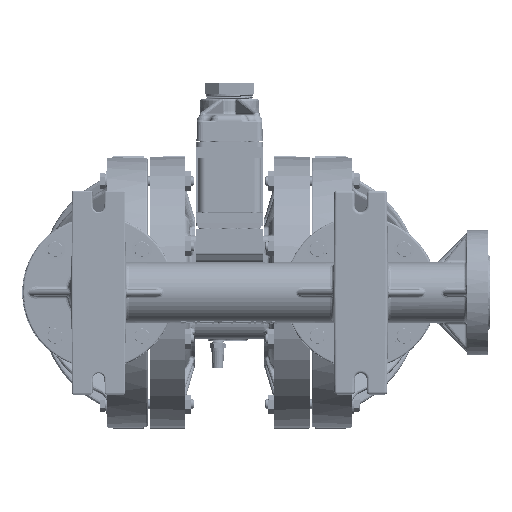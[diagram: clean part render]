
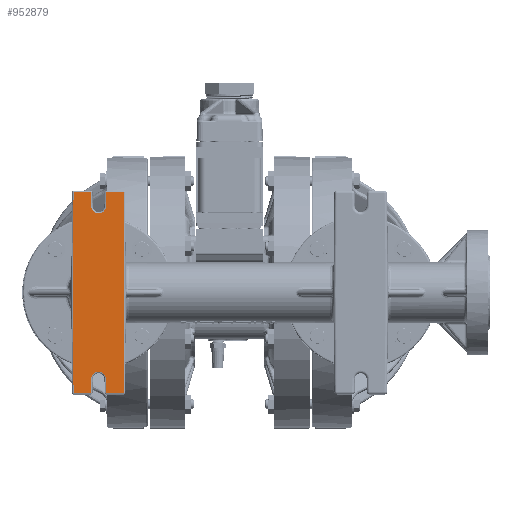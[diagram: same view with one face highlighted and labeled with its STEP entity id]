
A CAD part, front view. The second image highlights one B-rep face of the part: STEP entity #952879.
In plain terms, the highlighted planar face has unit normal (0, -1, 0).
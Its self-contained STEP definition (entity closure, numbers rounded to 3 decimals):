
#912533=DIRECTION('',(-1.,0.,0.));
#912534=VECTOR('',#912533,0.691);
#912535=CARTESIAN_POINT('',(-5.493,-12.884,3.98));
#912536=LINE('',#912535,#912534);
#912551=DIRECTION('',(-0.009,0.,1.));
#912552=VECTOR('',#912551,0.55);
#912553=CARTESIAN_POINT('',(-5.488,-12.884,3.43));
#912554=LINE('',#912553,#912552);
#912820=DIRECTION('',(-0.009,0.,1.));
#912821=VECTOR('',#912820,3.98);
#912822=CARTESIAN_POINT('',(-4.169,-12.884,0.));
#912823=LINE('',#912822,#912821);
#912857=DIRECTION('',(0.009,0.,1.));
#912858=VECTOR('',#912857,3.98);
#912859=CARTESIAN_POINT('',(-4.204,-12.884,-3.98));
#912860=LINE('',#912859,#912858);
#913142=DIRECTION('',(0.009,0.,-1.));
#913143=VECTOR('',#913142,3.98);
#913144=CARTESIAN_POINT('',(-6.219,-12.884,0.));
#913145=LINE('',#913144,#913143);
#913179=DIRECTION('',(1.,0.,0.));
#913180=VECTOR('',#913179,0.691);
#913181=CARTESIAN_POINT('',(-6.184,-12.884,-3.98));
#913182=LINE('',#913181,#913180);
#913197=DIRECTION('',(0.009,0.,1.));
#913198=VECTOR('',#913197,0.55);
#913199=CARTESIAN_POINT('',(-5.493,-12.884,-3.98));
#913200=LINE('',#913199,#913198);
#913210=CARTESIAN_POINT('',(-5.194,-12.884,-3.43));
#913211=DIRECTION('',(0.,1.,0.));
#913212=DIRECTION('',(-1.,0.,0.001));
#913213=AXIS2_PLACEMENT_3D('',#913210,#913211,#913212);
#913244=DIRECTION('',(0.009,0.,-1.));
#913245=VECTOR('',#913244,0.55);
#913246=CARTESIAN_POINT('',(-4.9,-12.884,-3.43));
#913247=LINE('',#913246,#913245);
#913281=DIRECTION('',(1.,0.,0.));
#913282=VECTOR('',#913281,0.691);
#913283=CARTESIAN_POINT('',(-4.895,-12.884,-3.98));
#913284=LINE('',#913283,#913282);
#913325=DIRECTION('',(-0.009,0.,-1.));
#913326=VECTOR('',#913325,3.98);
#913327=CARTESIAN_POINT('',(-6.184,-12.884,3.98));
#913328=LINE('',#913327,#913326);
#914097=DIRECTION('',(-1.,0.,0.));
#914098=VECTOR('',#914097,0.691);
#914099=CARTESIAN_POINT('',(-4.204,-12.884,3.98));
#914100=LINE('',#914099,#914098);
#914115=DIRECTION('',(-0.009,0.,-1.));
#914116=VECTOR('',#914115,0.55);
#914117=CARTESIAN_POINT('',(-4.895,-12.884,3.98));
#914118=LINE('',#914117,#914116);
#914128=CARTESIAN_POINT('',(-5.194,-12.884,3.43));
#914129=DIRECTION('',(0.,1.,0.));
#914130=DIRECTION('',(1.,0.,-0.001));
#914131=AXIS2_PLACEMENT_3D('',#914128,#914129,#914130);
#941686=CARTESIAN_POINT('',(-5.493,-12.884,3.98));
#941687=CARTESIAN_POINT('',(-6.184,-12.884,3.98));
#941688=VERTEX_POINT('',#941686);
#941689=VERTEX_POINT('',#941687);
#941692=CARTESIAN_POINT('',(-6.219,-12.884,0.));
#941693=VERTEX_POINT('',#941692);
#941698=CARTESIAN_POINT('',(-6.184,-12.884,-3.98));
#941699=VERTEX_POINT('',#941698);
#941737=CARTESIAN_POINT('',(-4.895,-12.884,-3.98));
#941738=CARTESIAN_POINT('',(-4.204,-12.884,-3.98));
#941739=VERTEX_POINT('',#941737);
#941740=VERTEX_POINT('',#941738);
#941743=CARTESIAN_POINT('',(-4.169,-12.884,0.));
#941744=VERTEX_POINT('',#941743);
#941749=CARTESIAN_POINT('',(-4.204,-12.884,3.98));
#941750=VERTEX_POINT('',#941749);
#941753=CARTESIAN_POINT('',(-4.895,-12.884,3.98));
#941754=VERTEX_POINT('',#941753);
#941759=CARTESIAN_POINT('',(-4.9,-12.884,3.43));
#941760=VERTEX_POINT('',#941759);
#941765=CARTESIAN_POINT('',(-5.488,-12.884,3.43));
#941766=VERTEX_POINT('',#941765);
#941780=CARTESIAN_POINT('',(-4.9,-12.884,-3.43));
#941781=VERTEX_POINT('',#941780);
#941784=CARTESIAN_POINT('',(-5.488,-12.884,-3.43));
#941785=VERTEX_POINT('',#941784);
#941788=CARTESIAN_POINT('',(-5.493,-12.884,-3.98));
#941789=VERTEX_POINT('',#941788);
#952845=CARTESIAN_POINT('',(0.,-12.884,0.));
#952846=DIRECTION('',(0.,1.,0.));
#952847=DIRECTION('',(-1.,0.,0.));
#952848=AXIS2_PLACEMENT_3D('',#952845,#952846,#952847);
#952849=PLANE('',#952848);
#952850=ORIENTED_EDGE('',*,*,#952835,.F.);
#952852=ORIENTED_EDGE('',*,*,#952851,.F.);
#952854=ORIENTED_EDGE('',*,*,#952853,.F.);
#952856=ORIENTED_EDGE('',*,*,#952855,.F.);
#952858=ORIENTED_EDGE('',*,*,#952857,.F.);
#952860=ORIENTED_EDGE('',*,*,#952859,.F.);
#952862=ORIENTED_EDGE('',*,*,#952861,.F.);
#952864=ORIENTED_EDGE('',*,*,#952863,.F.);
#952866=ORIENTED_EDGE('',*,*,#952865,.F.);
#952868=ORIENTED_EDGE('',*,*,#952867,.F.);
#952870=ORIENTED_EDGE('',*,*,#952869,.F.);
#952872=ORIENTED_EDGE('',*,*,#952871,.F.);
#952874=ORIENTED_EDGE('',*,*,#952873,.F.);
#952876=ORIENTED_EDGE('',*,*,#952875,.F.);
#952877=EDGE_LOOP('',(#952850,#952852,#952854,#952856,#952858,#952860,#952862,
#952864,#952866,#952868,#952870,#952872,#952874,#952876));
#952878=FACE_OUTER_BOUND('',#952877,.F.);
#913214=CIRCLE('',#913213,0.295);
#914132=CIRCLE('',#914131,0.295);
#952835=EDGE_CURVE('',#941688,#941689,#912536,.T.);
#952851=EDGE_CURVE('',#941766,#941688,#912554,.T.);
#952853=EDGE_CURVE('',#941760,#941766,#914132,.T.);
#952855=EDGE_CURVE('',#941754,#941760,#914118,.T.);
#952857=EDGE_CURVE('',#941750,#941754,#914100,.T.);
#952859=EDGE_CURVE('',#941744,#941750,#912823,.T.);
#952861=EDGE_CURVE('',#941740,#941744,#912860,.T.);
#952863=EDGE_CURVE('',#941739,#941740,#913284,.T.);
#952865=EDGE_CURVE('',#941781,#941739,#913247,.T.);
#952867=EDGE_CURVE('',#941785,#941781,#913214,.T.);
#952869=EDGE_CURVE('',#941789,#941785,#913200,.T.);
#952871=EDGE_CURVE('',#941699,#941789,#913182,.T.);
#952873=EDGE_CURVE('',#941693,#941699,#913145,.T.);
#952875=EDGE_CURVE('',#941689,#941693,#913328,.T.);
#952879=ADVANCED_FACE('',(#952878),#952849,.F.);
